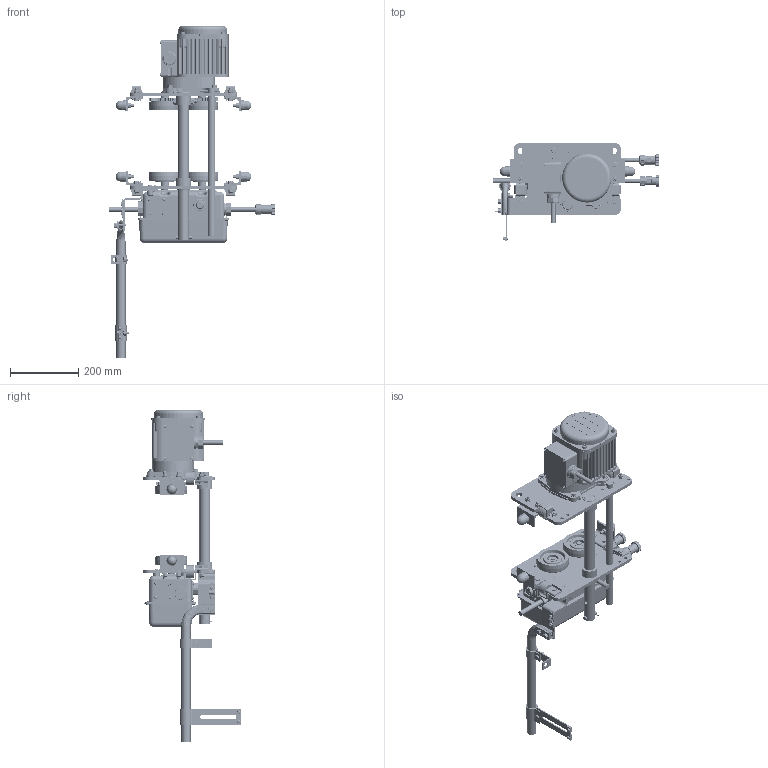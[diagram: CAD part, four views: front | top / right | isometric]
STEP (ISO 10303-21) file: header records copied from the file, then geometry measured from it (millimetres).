
FILE_DESCRIPTION (( 'STEP AP214' ), '1' );
FILE_NAME ('MR2001L.STEP', '2026-08-05T18:58:32', ( '' ), ( '' ), 'SwSTEP 2.0', 'SolidWorks 2026', '' );
FILE_SCHEMA (( 'AUTOMOTIVE_DESIGN' ));
Length unit declared in the file: inch
Products named in the file (91): MR1DS9631; MR1DS1493; MS527010; MR2001L; E6F630010S; MR1DS5201; MR2SHM10S9A8; 90912134; MR1DS9501; MS517010; MR1DS9203; 70130XX_7013001; MR1DS93112; MR1DS1211_Reversed; MR2DS1768; 9009446_9009446; 6077801; MSF181010_MSF181010; 9047242_9047242; MR1DS1481; ECP5924AH; single coil rectangular section spring washer_bsi_9012711; 60704; hexagon slotted nut low_1 small_jis_T3P154020; MR1DS9218; MR1DS9141_MR1DS9141; M6F554010; ECP5924AC1; MR1DS9202; MR1DS9493; 9012513; MR2DS1759; spring lock washer_2_jis_9012712; M6SE010S9102; KITO-WASHER; MR1DS9634; 6302Z BEARING; Socket Head Cap Screw_AM_B18.3.1M - 10 x 1.5 x 20 Hex SHCS -- 20NHX; 9009432_9009432; MS006010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
Assembly tree (217 placements, depth 5):
  MR2001L
    MR1DS5201
      MR1DS9201
      MR1DS9203  x2
      M6FE010S9113
    MR1DS5202
      MR1DS9202
      MR1DS9203  x2
      M6FE010S9114
    MR1DS9634  x4
    hex cap screw_am_9093330  x8
    single coil rectangular section spring washer_bsi_9012711  x20
    hex nut style 1_am_9093424  x16
    MR1DS9631  x4
    MS006010  x4
    MR1DS1211_Reversed  x2
      MR1DS1211
      MR1DS9218
    MR1DS1211  x2
      MR1DS1211
      MR1DS9218
    MS1101010  x2
      M6SE010S9101
      6302Z BEARING
      9047242_9047242
    hex cap screw_am_9093329  x4
    MS1102010  x2
      M6SE010S9102
      radial ball bearing_68_am_AFBMA 20.1 - 03-15 - Full,SI,NC,Full_68
      basic internal retaining ring_am_B27.7M - 3BM1-42
    9009446_9009446  x2
    MS161010
    T6G156020
    9009432_9009432
    hexagon slotted nut low_1 small_jis_T3P154020
    split pin (metric) as_9009414-5
    9047115_9047115  x4
    MS104010  x4
    6077801
      MR1DS93112
      MR1DS9324
      MR1DS9325
      MR1DS1301
      90912134  x4
      MS554010  x4
    9012513  x4
    hex cap screw_am_9093328  x4
    MR1DS9248
    70130XX_7013001
      MR1DS9411
      MR1DS9401_1 - 8 TON & 10 L TON
      MR1DS9421
      MS554010  x12
      MR2DS2811
        ECP5924AH
        MS527010
        MR2DI1811
        ES558003  x4
      MS517010  x4
      MS551010  x4
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Bounding box: 483.84 x 285.45 x 970.57 mm (x, y, z)
Volume: 5729616.9 mm3; surface area: 1848938.3 mm2
Topology: 244 solids, 252 shells, 8206 faces, 21402 edges, 13943 vertices
Faces by surface type: plane 3990, cylinder 2422, cone 926, torus 456, bspline 388, sphere 24
Entity records: 188275 total; most frequent: CARTESIAN_POINT 68953, ORIENTED_EDGE 24576, DIRECTION 23045, EDGE_CURVE 12290, AXIS2_PLACEMENT_3D 8381, VERTEX_POINT 8187, VECTOR 6283, LINE 6283
